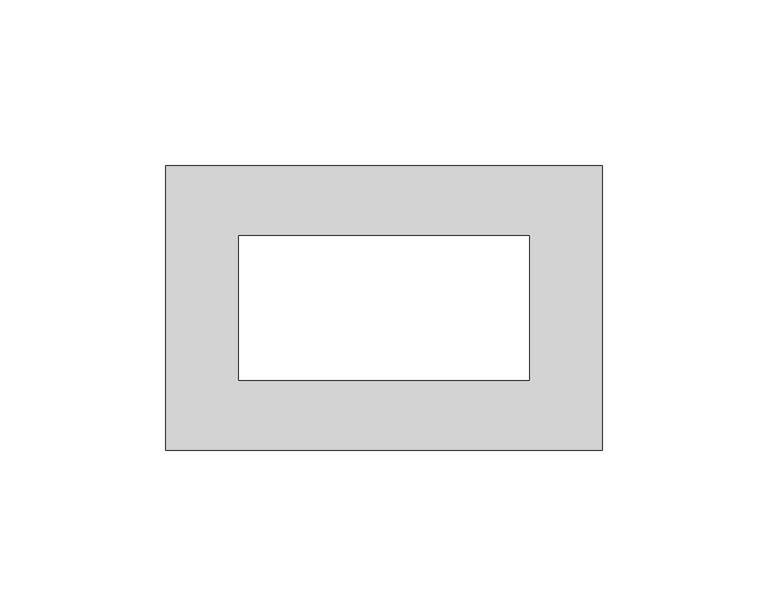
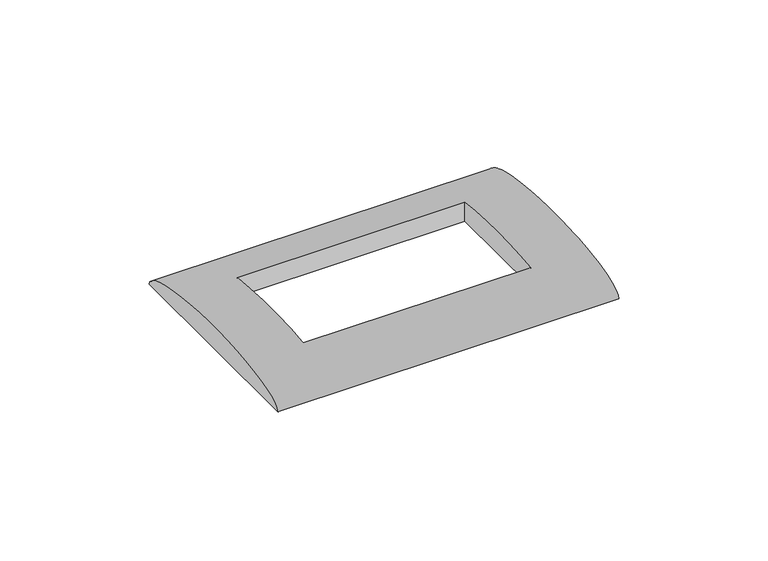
"""IFC4 building model written with IfcOpenShell, lengths in millimetres: proxy geometry, 00-Placca : Placca 4 moduli."""

from ifc_helpers import new_model, si_unit, point, frame, origin, place, context, project, spatial, ellipse_curve, trimmed, source, transform, mapped, element, save
from ifc_brep_helpers import plane_surface, extruded_surface, advanced_brep


def electrical_fixtures_5a660215(model_context):
    return source(origin(), model_context, "Body", "AdvancedBrep", [
        advanced_brep(
        [(66.0, -43.0, 2.0), (66.0, 43.0, 2.0), (-66.0, -43.0, 2.0), (-66.0, 43.0, 2.0), (44.0, -22.0, 2.0), (44.0, 22.0, 2.0), (-44.0, 22.0, 2.0), (-44.0, -22.0, 2.0), (44.0, -22.0, 9.7328641), (44.0, 22.0, 9.7328641), (-44.0, 22.0, 9.7328641), (-44.0, -22.0, 9.7328641)],
        [
            (0, 1),
            (1, 0, ellipse_curve(frame((66.0, 0.0, 2.0), z_axis=(1.0, 0.0, 0.0), x_axis=(0.0, 1.0, 0.0)), 43.0, 9.0)),
            (2, 3, ellipse_curve(frame((-66.0, 0.0, 2.0), z_axis=(-1.0, 0.0, 0.0), x_axis=(0.0, 1.0, 0.0)), 43.0, 9.0)),
            (3, 2),
            (0, 2),
            (3, 1),
            (4, 5),
            (5, 6),
            (6, 7),
            (7, 4),
            (4, 8),
            (8, 9, ellipse_curve(frame((44.0, 0.0, 2.0), z_axis=(-1.0, 0.0, 0.0), x_axis=(0.0, 1.0, 0.0)), 43.0, 9.0)),
            (9, 5),
            (9, 10),
            (10, 6),
            (10, 11, ellipse_curve(frame((-44.0, 0.0, 2.0), z_axis=(1.0, 0.0, 0.0), x_axis=(0.0, 1.0, 0.0)), 43.0, 9.0)),
            (11, 7),
            (11, 8),
        ],
        [
            plane_surface(frame((66.0, 43.0, 2.0), z_axis=(1.0, 0.0, 0.0), x_axis=(0.0, 1.0, 0.0))),
            plane_surface(frame((-66.0, 43.0, 2.0), z_axis=(-1.0, 0.0, 0.0), x_axis=(0.0, -1.0, 0.0))),
            plane_surface(frame((66.0, -43.0, 2.0), z_axis=(0.0, 0.0, -1.0), x_axis=(-1.0, 0.0, 0.0))),
            plane_surface(frame((44.0, -22.0, 13.0), z_axis=(-1.0, 0.0, 0.0), x_axis=(0.0, 0.0, -1.0))),
            plane_surface(frame((44.0, 22.0, 13.0), z_axis=(0.0, -1.0, 0.0), x_axis=(0.0, 0.0, -1.0))),
            plane_surface(frame((-44.0, 22.0, 13.0), z_axis=(1.0, 0.0, 0.0), x_axis=(0.0, 0.0, -1.0))),
            plane_surface(frame((-44.0, -22.0, 13.0), z_axis=(0.0, 1.0, 0.0), x_axis=(0.0, 0.0, -1.0))),
            extruded_surface(trimmed(ellipse_curve(frame((-198.0, 0.0, 2.0), z_axis=(1.0, 0.0, 0.0), x_axis=(0.0, 1.0, 0.0)), 43.0, 9.0), [point((-198.0, 43.0, 2.0))], [point((-198.0, -43.0, 2.0))], True, "CARTESIAN"), (132.0, 0.0, 0.0), 132.0),
        ],
        [
            (0, [[1, 2]]),
            (1, [[3, 4]]),
            (2, [[-1, 5, -4, 6], [7, 8, 9, 10]]),
            (3, [[11, 12, 13, -7]]),
            (4, [[-13, 14, 15, -8]]),
            (5, [[-15, 16, 17, -9]]),
            (6, [[-11, -10, -17, 18]]),
            (7, [[-2, -6, -3, -5], [-12, -18, -16, -14]]),
        ],
    ),
    ])


if __name__ == "__main__":
    model = new_model("IFC4")
    model_context = context("Model", 3, world=origin())
    ifc_project = project(units=[si_unit("LENGTHUNIT", "METRE", prefix="MILLI")], contexts=[model_context])
    site = spatial("IfcSite", under=ifc_project)
    building = spatial("IfcBuilding", under=site)
    placement = place(None, origin())
    electrical_fixtures_shape = electrical_fixtures_5a660215(model_context)
    element("IfcBuildingElementProxy", 1, Name="00-Placca : Placca 4 moduli", ObjectType="00-Placca : Placca 4 moduli", at=placement, inside=building, context=model_context, shape_type="MappedRepresentation", body=[
        mapped(electrical_fixtures_shape, transform((0.0, 0.0, 0.0), x_axis=(1.0, 0.0, 0.0), y_axis=(0.0, 1.0, 0.0), z_axis=(0.0, 0.0, 1.0))),
    ])
    save(model, "model.ifc")
